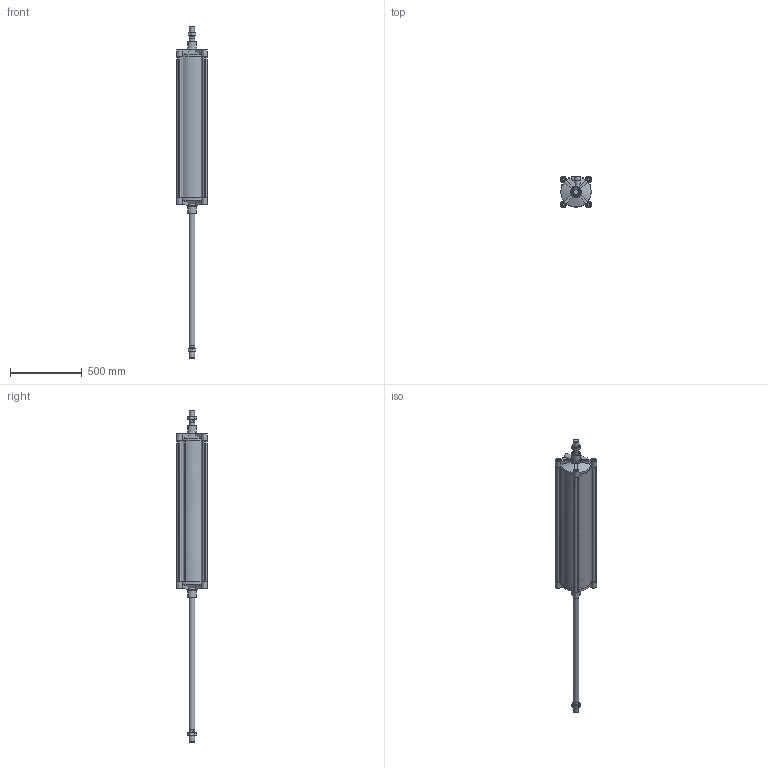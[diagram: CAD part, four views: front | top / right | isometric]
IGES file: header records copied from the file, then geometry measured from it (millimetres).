
Global section: file name: 139#_200_0900_02; native system: Autodesk Inventor 2014; preprocessor: unknown; author: F. Piloni; organization: Pneumax S.p.A.; date: 20151120.143316; units: millimetre
Bounding box: 215.99 x 216 x 2314 mm (x, y, z)
Volume: 13597520.1 mm3; surface area: 2675506.3 mm2
Topology: 6 solids, 6 shells, 324 faces, 844 edges, 567 vertices
Faces by surface type: bspline 324
